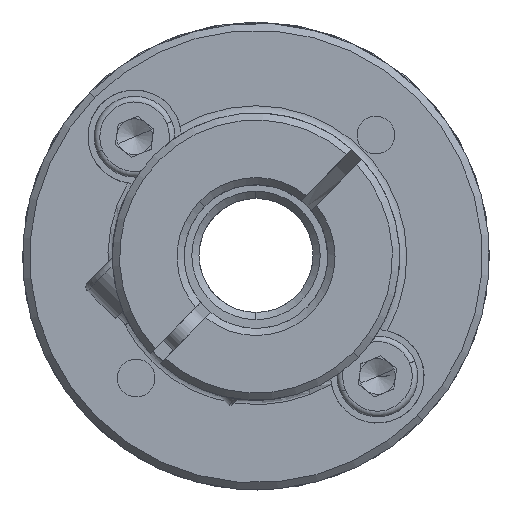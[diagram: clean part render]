
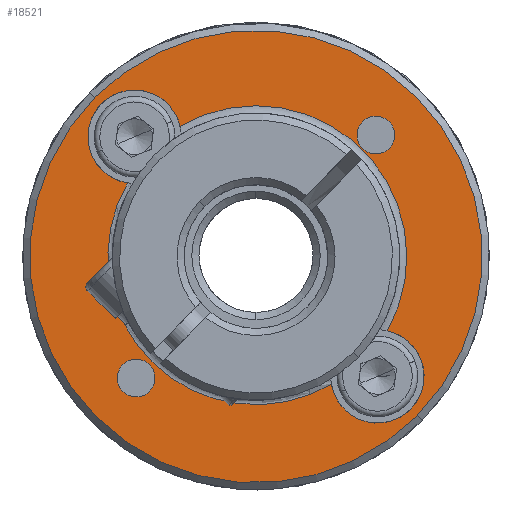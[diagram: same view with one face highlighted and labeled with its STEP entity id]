
A CAD part, front view. The second image highlights one B-rep face of the part: STEP entity #18521.
In plain terms, the highlighted planar face has unit normal (0, -1, 0).
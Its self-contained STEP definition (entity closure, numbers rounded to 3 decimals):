
#30 = VERTEX_POINT ( 'NONE', #13073 ) ;
#554 = CARTESIAN_POINT ( 'NONE',  ( -4.076, -18.979, 25.938 ) ) ;
#600 = AXIS2_PLACEMENT_3D ( 'NONE', #16841, #7819, #6390 ) ;
#756 = VERTEX_POINT ( 'NONE', #3523 ) ;
#779 = DIRECTION ( 'NONE',  ( 0., -1., 0. ) ) ;
#1682 = DIRECTION ( 'NONE',  ( 0., -1., 0. ) ) ;
#1793 = VERTEX_POINT ( 'NONE', #7020 ) ;
#1876 = PLANE ( 'NONE',  #19041 ) ;
#1892 = CIRCLE ( 'NONE', #19347, 2.6 ) ;
#1922 = ORIENTED_EDGE ( 'NONE', *, *, #8727, .T. ) ;
#2327 = VERTEX_POINT ( 'NONE', #15768 ) ;
#2526 = CIRCLE ( 'NONE', #8895, 1.05 ) ;
#2532 = VERTEX_POINT ( 'NONE', #16804 ) ;
#2731 = CIRCLE ( 'NONE', #7290, 8.247 ) ;
#2779 = EDGE_CURVE ( 'NONE', #2327, #9665, #9028, .T. ) ;
#3523 = CARTESIAN_POINT ( 'NONE',  ( 0.121, -18.979, 18.838 ) ) ;
#3726 = ORIENTED_EDGE ( 'NONE', *, *, #14667, .T. ) ;
#4538 = DIRECTION ( 'NONE',  ( -0.712, 0., 0.702 ) ) ;
#4810 = VERTEX_POINT ( 'NONE', #10835 ) ;
#5436 = AXIS2_PLACEMENT_3D ( 'NONE', #15860, #18971, #9945 ) ;
#5612 = EDGE_LOOP ( 'NONE', ( #3726, #9656 ) ) ;
#5963 = AXIS2_PLACEMENT_3D ( 'NONE', #13482, #18168, #4538 ) ;
#6000 = ORIENTED_EDGE ( 'NONE', *, *, #13512, .T. ) ;
#6390 = DIRECTION ( 'NONE',  ( -0.712, 0., 0.702 ) ) ;
#6425 = CARTESIAN_POINT ( 'NONE',  ( -10.837, -18.979, 32.611 ) ) ;
#6476 = DIRECTION ( 'NONE',  ( -0.712, 0., 0.702 ) ) ;
#6649 = DIRECTION ( 'NONE',  ( -0.712, 0., 0.702 ) ) ;
#6774 = DIRECTION ( 'NONE',  ( -0.712, 0., 0.702 ) ) ;
#6875 = EDGE_LOOP ( 'NONE', ( #11706, #17712 ) ) ;
#7020 = CARTESIAN_POINT ( 'NONE',  ( -10.002, -18.979, 18.439 ) ) ;
#7290 = AXIS2_PLACEMENT_3D ( 'NONE', #13938, #12423, #6649 ) ;
#7392 = DIRECTION ( 'NONE',  ( 0., 1., 0. ) ) ;
#7488 = AXIS2_PLACEMENT_3D ( 'NONE', #13631, #1682, #9349 ) ;
#7819 = DIRECTION ( 'NONE',  ( 0., 1., 0. ) ) ;
#7919 = VERTEX_POINT ( 'NONE', #17673 ) ;
#8023 = ORIENTED_EDGE ( 'NONE', *, *, #16109, .T. ) ;
#8029 = DIRECTION ( 'NONE',  ( 0., -1., 0. ) ) ;
#8148 = EDGE_CURVE ( 'NONE', #7919, #16211, #16635, .T. ) ;
#8181 = CARTESIAN_POINT ( 'NONE',  ( -11.496, -18.979, 19.914 ) ) ;
#8727 = EDGE_CURVE ( 'NONE', #4810, #12653, #10287, .T. ) ;
#8895 = AXIS2_PLACEMENT_3D ( 'NONE', #17650, #19167, #11459 ) ;
#9028 = CIRCLE ( 'NONE', #10170, 1.05 ) ;
#9035 = FACE_BOUND ( 'NONE', #6875, .T. ) ;
#9092 = AXIS2_PLACEMENT_3D ( 'NONE', #12642, #18777, #6476 ) ;
#9196 = EDGE_LOOP ( 'NONE', ( #6000, #18873 ) ) ;
#9303 = ORIENTED_EDGE ( 'NONE', *, *, #15852, .T. ) ;
#9349 = DIRECTION ( 'NONE',  ( -0.712, 0., 0.702 ) ) ;
#9486 = DIRECTION ( 'NONE',  ( 0., 1., 0. ) ) ;
#9563 = EDGE_LOOP ( 'NONE', ( #1922, #8023, #11230, #9802, #17404, #9303 ) ) ;
#9656 = ORIENTED_EDGE ( 'NONE', *, *, #8148, .T. ) ;
#9665 = VERTEX_POINT ( 'NONE', #10569 ) ;
#9772 = CARTESIAN_POINT ( 'NONE',  ( -4.076, -18.979, 25.938 ) ) ;
#9802 = ORIENTED_EDGE ( 'NONE', *, *, #13651, .T. ) ;
#9945 = DIRECTION ( 'NONE',  ( -0.712, 0., 0.702 ) ) ;
#10170 = AXIS2_PLACEMENT_3D ( 'NONE', #18949, #19074, #6774 ) ;
#10287 = CIRCLE ( 'NONE', #600, 2.6 ) ;
#10427 = CARTESIAN_POINT ( 'NONE',  ( -4.076, -18.979, 25.938 ) ) ;
#10471 = FACE_OUTER_BOUND ( 'NONE', #5612, .T. ) ;
#10569 = CARTESIAN_POINT ( 'NONE',  ( 3.345, -18.979, 31.962 ) ) ;
#10835 = CARTESIAN_POINT ( 'NONE',  ( 3.238, -18.979, 21.805 ) ) ;
#11230 = ORIENTED_EDGE ( 'NONE', *, *, #17739, .T. ) ;
#11310 = CIRCLE ( 'NONE', #5963, 1.05 ) ;
#11459 = DIRECTION ( 'NONE',  ( -0.712, 0., 0.702 ) ) ;
#11692 = CARTESIAN_POINT ( 'NONE',  ( 4.536, -18.979, 17.438 ) ) ;
#11706 = ORIENTED_EDGE ( 'NONE', *, *, #13913, .T. ) ;
#11799 = CIRCLE ( 'NONE', #5436, 2.6 ) ;
#12032 = CIRCLE ( 'NONE', #9092, 1.05 ) ;
#12291 = AXIS2_PLACEMENT_3D ( 'NONE', #15537, #9486, #18377 ) ;
#12409 = CIRCLE ( 'NONE', #14798, 8.4 ) ;
#12423 = DIRECTION ( 'NONE',  ( 0., 1., 0. ) ) ;
#12642 = CARTESIAN_POINT ( 'NONE',  ( -10.749, -18.979, 19.176 ) ) ;
#12653 = VERTEX_POINT ( 'NONE', #11692 ) ;
#13052 = VERTEX_POINT ( 'NONE', #8181 ) ;
#13073 = CARTESIAN_POINT ( 'NONE',  ( -12.688, -18.979, 34.437 ) ) ;
#13257 = FACE_BOUND ( 'NONE', #9196, .T. ) ;
#13482 = CARTESIAN_POINT ( 'NONE',  ( 2.598, -18.979, 32.699 ) ) ;
#13512 = EDGE_CURVE ( 'NONE', #1793, #13052, #12032, .T. ) ;
#13631 = CARTESIAN_POINT ( 'NONE',  ( -4.076, -18.979, 25.938 ) ) ;
#13651 = EDGE_CURVE ( 'NONE', #16231, #30, #11799, .T. ) ;
#13913 = EDGE_CURVE ( 'NONE', #9665, #2327, #11310, .T. ) ;
#13938 = CARTESIAN_POINT ( 'NONE',  ( -4.076, -18.979, 25.938 ) ) ;
#14040 = CIRCLE ( 'NONE', #12291, 2.6 ) ;
#14282 = AXIS2_PLACEMENT_3D ( 'NONE', #9772, #779, #17349 ) ;
#14348 = CARTESIAN_POINT ( 'NONE',  ( -11.23, -18.979, 30.041 ) ) ;
#14665 = EDGE_CURVE ( 'NONE', #30, #2532, #1892, .T. ) ;
#14667 = EDGE_CURVE ( 'NONE', #16211, #7919, #18837, .T. ) ;
#14798 = AXIS2_PLACEMENT_3D ( 'NONE', #10427, #7392, #17868 ) ;
#15488 = DIRECTION ( 'NONE',  ( 0., 1., 0. ) ) ;
#15537 = CARTESIAN_POINT ( 'NONE',  ( 2.686, -18.979, 19.264 ) ) ;
#15593 = DIRECTION ( 'NONE',  ( -0.712, 0., 0.702 ) ) ;
#15768 = CARTESIAN_POINT ( 'NONE',  ( 1.85, -18.979, 33.437 ) ) ;
#15852 = EDGE_CURVE ( 'NONE', #2532, #4810, #12409, .T. ) ;
#15860 = CARTESIAN_POINT ( 'NONE',  ( -10.837, -18.979, 32.611 ) ) ;
#16109 = EDGE_CURVE ( 'NONE', #12653, #756, #14040, .T. ) ;
#16211 = VERTEX_POINT ( 'NONE', #17394 ) ;
#16231 = VERTEX_POINT ( 'NONE', #14348 ) ;
#16337 = EDGE_CURVE ( 'NONE', #13052, #1793, #2526, .T. ) ;
#16635 = CIRCLE ( 'NONE', #7488, 12.6 ) ;
#16804 = CARTESIAN_POINT ( 'NONE',  ( -8.304, -18.979, 33.196 ) ) ;
#16841 = CARTESIAN_POINT ( 'NONE',  ( 2.686, -18.979, 19.264 ) ) ;
#16949 = DIRECTION ( 'NONE',  ( -0.712, 0., 0.702 ) ) ;
#17349 = DIRECTION ( 'NONE',  ( -0.712, 0., 0.702 ) ) ;
#17394 = CARTESIAN_POINT ( 'NONE',  ( 4.892, -18.979, 17.087 ) ) ;
#17404 = ORIENTED_EDGE ( 'NONE', *, *, #14665, .T. ) ;
#17650 = CARTESIAN_POINT ( 'NONE',  ( -10.749, -18.979, 19.176 ) ) ;
#17673 = CARTESIAN_POINT ( 'NONE',  ( -13.043, -18.979, 34.789 ) ) ;
#17712 = ORIENTED_EDGE ( 'NONE', *, *, #2779, .T. ) ;
#17739 = EDGE_CURVE ( 'NONE', #756, #16231, #2731, .T. ) ;
#17868 = DIRECTION ( 'NONE',  ( -0.712, 0., 0.702 ) ) ;
#18168 = DIRECTION ( 'NONE',  ( 0., 1., 0. ) ) ;
#18377 = DIRECTION ( 'NONE',  ( -0.712, 0., 0.702 ) ) ;
#18521 = ADVANCED_FACE ( 'NONE', ( #10471, #9035, #13257, #18706 ), #1876, .T. ) ;
#18706 = FACE_BOUND ( 'NONE', #9563, .T. ) ;
#18777 = DIRECTION ( 'NONE',  ( 0., 1., 0. ) ) ;
#18837 = CIRCLE ( 'NONE', #14282, 12.6 ) ;
#18873 = ORIENTED_EDGE ( 'NONE', *, *, #16337, .T. ) ;
#18949 = CARTESIAN_POINT ( 'NONE',  ( 2.598, -18.979, 32.699 ) ) ;
#18971 = DIRECTION ( 'NONE',  ( 0., 1., 0. ) ) ;
#19041 = AXIS2_PLACEMENT_3D ( 'NONE', #554, #8029, #15593 ) ;
#19074 = DIRECTION ( 'NONE',  ( 0., 1., 0. ) ) ;
#19167 = DIRECTION ( 'NONE',  ( 0., 1., 0. ) ) ;
#19347 = AXIS2_PLACEMENT_3D ( 'NONE', #6425, #15488, #16949 ) ;
